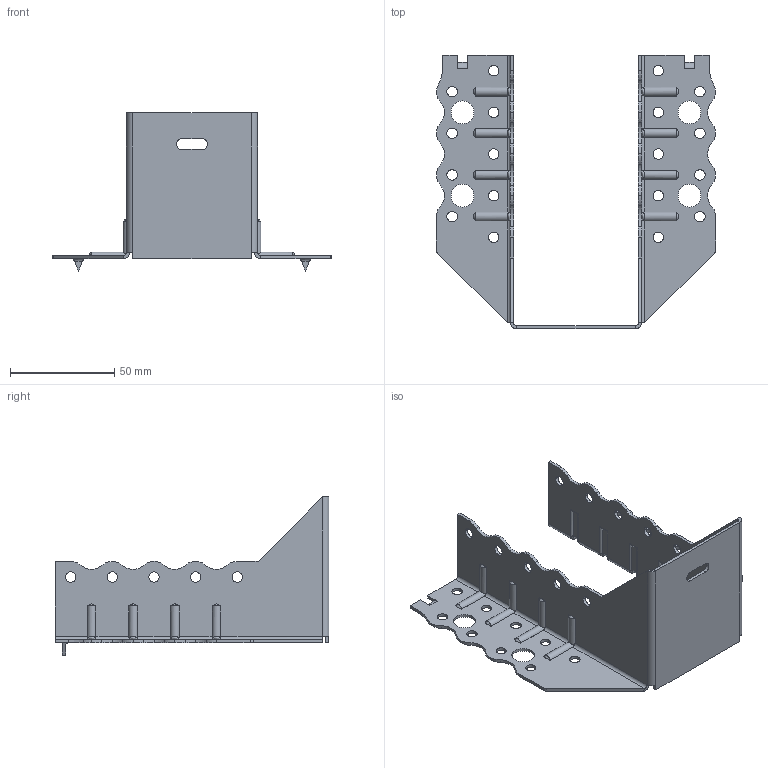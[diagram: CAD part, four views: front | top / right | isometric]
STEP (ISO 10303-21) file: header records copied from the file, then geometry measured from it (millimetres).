
FILE_DESCRIPTION (( 'STEP AP203' ), '1' );
FILE_NAME ('30609TOP.STEP', '2021-04-07T11:23:46', ( '' ), ( '' ), 'SwSTEP 2.0', 'SolidWorks 2013', '' );
FILE_SCHEMA (( 'CONFIG_CONTROL_DESIGN' ));
Length unit declared in the file: millimetre
Products named in the file (1): 30609TOP
Bounding box: 134 x 131.5 x 76 mm (x, y, z)
Volume: 32422.2 mm3; surface area: 46173.3 mm2
Topology: 1 solids, 1 shells, 359 faces, 963 edges, 606 vertices
Faces by surface type: cylinder 221, plane 106, torus 16, bspline 16
Entity records: 13198 total; most frequent: CARTESIAN_POINT 4091, ORIENTED_EDGE 1926, DIRECTION 1865, EDGE_CURVE 963, AXIS2_PLACEMENT_3D 678, VERTEX_POINT 606, LINE 509, VECTOR 509
